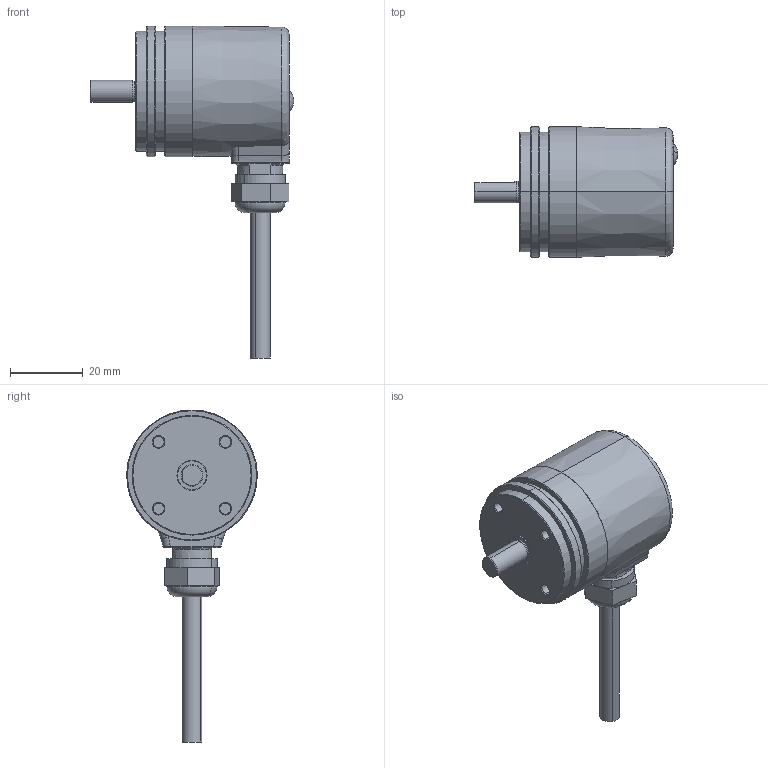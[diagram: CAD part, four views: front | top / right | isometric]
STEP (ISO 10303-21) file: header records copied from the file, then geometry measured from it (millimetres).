
FILE_DESCRIPTION (( 'STEP AP214' ), '1' );
FILE_NAME ('3650.23X2.XXXX.STEP', '2008-07-23T05:52:21', ( 'admin' ), ( 'Fritz Kübler GmbH' ), 'SwSTEP 2.0', 'SolidWorks 2008', '' );
FILE_SCHEMA (( 'AUTOMOTIVE_DESIGN' ));
Length unit declared in the file: millimetre
Products named in the file (1): 3650.23X2.XXXX
Bounding box: 56.09 x 36 x 91.5 mm (x, y, z)
Surface area: 9397.2 mm2 (no closed solid volume)
Topology: 0 solids, 9 shells, 128 faces, 308 edges, 197 vertices
Faces by surface type: cylinder 42, plane 39, cone 30, torus 15, sphere 2
Entity records: 5342 total; most frequent: CARTESIAN_POINT 902, DIRECTION 688, ORIENTED_EDGE 568, EDGE_CURVE 308, AXIS2_PLACEMENT_3D 289, VERTEX_POINT 197, CIRCLE 160, EDGE_LOOP 146
